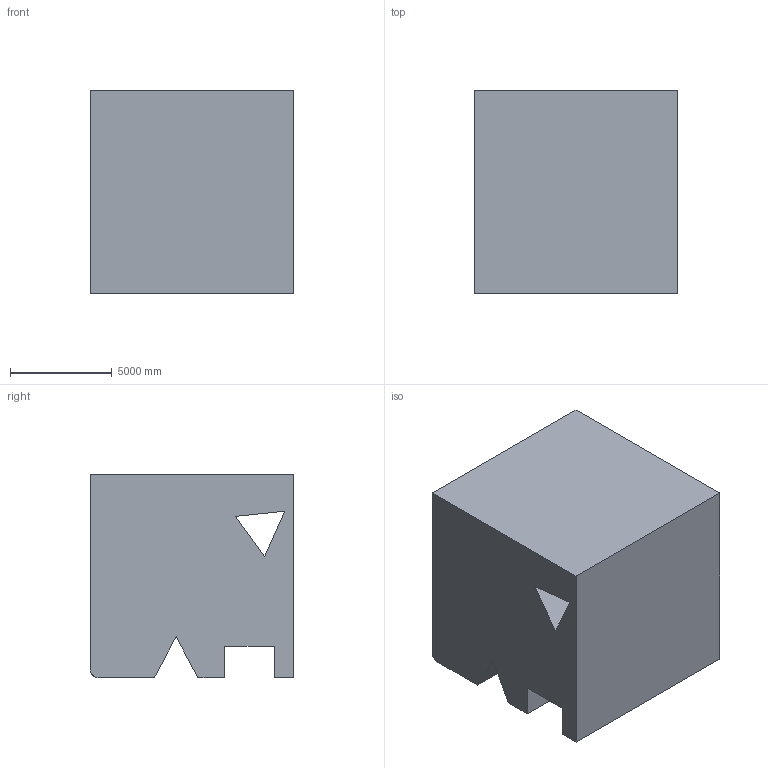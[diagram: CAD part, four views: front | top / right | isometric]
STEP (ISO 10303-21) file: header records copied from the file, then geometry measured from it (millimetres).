
FILE_DESCRIPTION (( 'STEP AP203' ), '1' );
FILE_NAME ('43.STEP', '2022-09-01T11:44:20', ( 'user' ), ( '' ), 'SwSTEP 2.0', 'SolidWorks 2021', '' );
FILE_SCHEMA (( 'CONFIG_CONTROL_DESIGN' ));
Length unit declared in the file: centimetre
Products named in the file (1): 43
Bounding box: 10000 x 10000 x 10000 mm (x, y, z)
Volume: 910476946802.9 mm3; surface area: 706686540 mm2
Topology: 1 solids, 1 shells, 19 faces, 51 edges, 34 vertices
Faces by surface type: plane 18, cylinder 1
Entity records: 667 total; most frequent: CARTESIAN_POINT 108, ORIENTED_EDGE 102, DIRECTION 91, EDGE_CURVE 51, VECTOR 49, LINE 49, VERTEX_POINT 34, EDGE_LOOP 21
